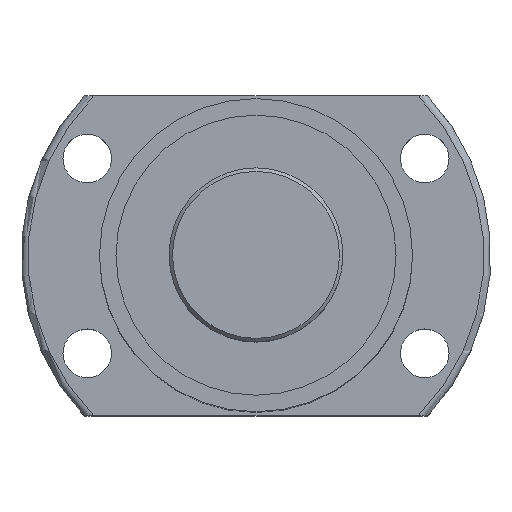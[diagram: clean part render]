
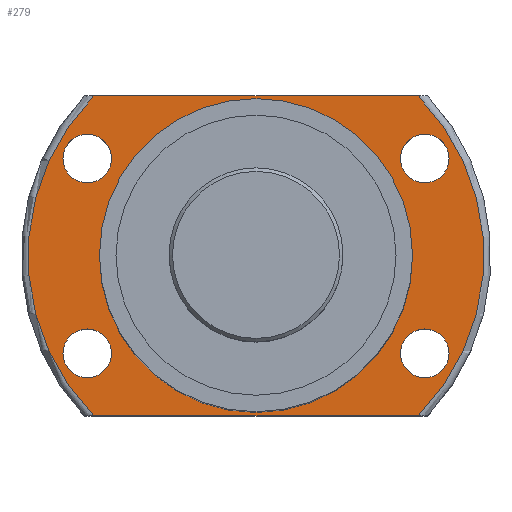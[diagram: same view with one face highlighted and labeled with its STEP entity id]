
A CAD part, top view. The second image highlights one B-rep face of the part: STEP entity #279.
In plain terms, the highlighted planar face has unit normal (0, 0, 1) as drawn and (1, 0, 0) by its records, which use the part's own axes.
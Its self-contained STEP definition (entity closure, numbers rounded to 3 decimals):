
#107=LINE('',#1185,#115);
#108=LINE('',#1190,#116);
#115=VECTOR('',#993,1.);
#116=VECTOR('',#996,1.);
#213=FACE_BOUND('',#391,.T.);
#214=FACE_BOUND('',#392,.T.);
#215=FACE_BOUND('',#393,.T.);
#216=FACE_BOUND('',#394,.T.);
#217=FACE_BOUND('',#395,.T.);
#218=FACE_BOUND('',#396,.T.);
#279=ADVANCED_FACE('',(#213,#214,#215,#216,#217,#218),#315,.T.);
#315=PLANE('',#829);
#391=EDGE_LOOP('',(#493,#494,#495,#496));
#392=EDGE_LOOP('',(#497));
#393=EDGE_LOOP('',(#498));
#394=EDGE_LOOP('',(#499));
#395=EDGE_LOOP('',(#500));
#396=EDGE_LOOP('',(#501));
#493=ORIENTED_EDGE('',*,*,#667,.T.);
#494=ORIENTED_EDGE('',*,*,#668,.T.);
#495=ORIENTED_EDGE('',*,*,#669,.F.);
#496=ORIENTED_EDGE('',*,*,#670,.T.);
#497=ORIENTED_EDGE('',*,*,#671,.T.);
#498=ORIENTED_EDGE('',*,*,#672,.T.);
#499=ORIENTED_EDGE('',*,*,#673,.T.);
#500=ORIENTED_EDGE('',*,*,#674,.T.);
#501=ORIENTED_EDGE('',*,*,#651,.F.);
#589=VERTEX_POINT('',#1138);
#605=VERTEX_POINT('',#1186);
#606=VERTEX_POINT('',#1187);
#607=VERTEX_POINT('',#1189);
#608=VERTEX_POINT('',#1191);
#609=VERTEX_POINT('',#1194);
#610=VERTEX_POINT('',#1196);
#611=VERTEX_POINT('',#1198);
#612=VERTEX_POINT('',#1200);
#651=EDGE_CURVE('',#589,#589,#721,.T.);
#667=EDGE_CURVE('',#605,#606,#107,.T.);
#668=EDGE_CURVE('',#606,#607,#737,.T.);
#669=EDGE_CURVE('',#608,#607,#108,.T.);
#670=EDGE_CURVE('',#608,#605,#738,.T.);
#671=EDGE_CURVE('',#609,#609,#739,.T.);
#672=EDGE_CURVE('',#610,#610,#740,.T.);
#673=EDGE_CURVE('',#611,#611,#741,.T.);
#674=EDGE_CURVE('',#612,#612,#742,.T.);
#721=CIRCLE('',#791,45.);
#737=CIRCLE('',#823,65.5);
#738=CIRCLE('',#824,65.5);
#739=CIRCLE('',#825,7.);
#740=CIRCLE('',#826,7.);
#741=CIRCLE('',#827,7.);
#742=CIRCLE('',#828,7.);
#791=AXIS2_PLACEMENT_3D('',#1137,#929,#930);
#823=AXIS2_PLACEMENT_3D('',#1188,#994,#995);
#824=AXIS2_PLACEMENT_3D('',#1192,#997,#998);
#825=AXIS2_PLACEMENT_3D('',#1193,#999,#1000);
#826=AXIS2_PLACEMENT_3D('',#1195,#1001,#1002);
#827=AXIS2_PLACEMENT_3D('',#1197,#1003,#1004);
#828=AXIS2_PLACEMENT_3D('',#1199,#1005,#1006);
#829=AXIS2_PLACEMENT_3D('',#1201,#1007,#1008);
#929=DIRECTION('',(1.,0.,0.));
#930=DIRECTION('',(0.,1.,0.));
#993=DIRECTION('',(0.,0.,1.));
#994=DIRECTION('',(1.,0.,0.));
#995=DIRECTION('',(0.,1.,0.));
#996=DIRECTION('',(0.,0.,1.));
#997=DIRECTION('',(1.,0.,0.));
#998=DIRECTION('',(0.,1.,0.));
#999=DIRECTION('',(-1.,0.,0.));
#1000=DIRECTION('',(0.,-1.,0.));
#1001=DIRECTION('',(-1.,0.,0.));
#1002=DIRECTION('',(0.,-1.,0.));
#1003=DIRECTION('',(-1.,0.,0.));
#1004=DIRECTION('',(0.,-1.,0.));
#1005=DIRECTION('',(-1.,0.,0.));
#1006=DIRECTION('',(0.,-1.,0.));
#1007=DIRECTION('',(1.,0.,0.));
#1008=DIRECTION('',(0.,1.,0.));
#1137=CARTESIAN_POINT('',(260.712,110.794,0.));
#1138=CARTESIAN_POINT('',(260.712,155.794,0.));
#1185=CARTESIAN_POINT('',(260.712,156.794,-87.128));
#1186=CARTESIAN_POINT('',(260.712,156.794,-46.629));
#1187=CARTESIAN_POINT('',(260.712,156.794,46.629));
#1188=CARTESIAN_POINT('',(260.712,110.794,0.));
#1189=CARTESIAN_POINT('',(260.712,64.794,46.629));
#1190=CARTESIAN_POINT('',(260.712,64.794,-87.128));
#1191=CARTESIAN_POINT('',(260.712,64.794,-46.629));
#1192=CARTESIAN_POINT('',(260.712,110.794,0.));
#1193=CARTESIAN_POINT('',(260.712,138.794,48.5));
#1194=CARTESIAN_POINT('',(260.712,131.794,48.5));
#1195=CARTESIAN_POINT('',(260.712,82.794,48.5));
#1196=CARTESIAN_POINT('',(260.712,75.794,48.5));
#1197=CARTESIAN_POINT('',(260.712,82.794,-48.5));
#1198=CARTESIAN_POINT('',(260.712,75.794,-48.5));
#1199=CARTESIAN_POINT('',(260.712,138.794,-48.5));
#1200=CARTESIAN_POINT('',(260.712,131.794,-48.5));
#1201=CARTESIAN_POINT('',(260.712,156.794,0.));
